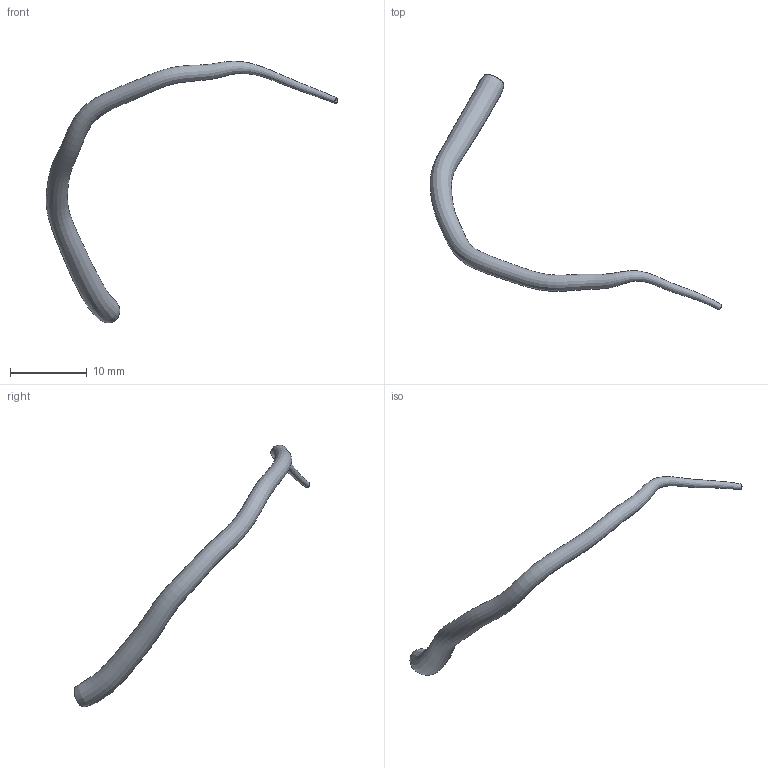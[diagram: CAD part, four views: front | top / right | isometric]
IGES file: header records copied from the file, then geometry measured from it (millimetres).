
Global section: file name: C:\Documents and Settings\Administrator\Desktop\FDA-Pig\Domestic LCA\Pig_000138\lcx.seg.ed.igs; native system: Rhinoceros ( May 19 2006 ); preprocessor: Trout Lake IGES 012 May 19 2006; date: 111205.184704; units: centimetre
Bounding box: 37.9 x 30.65 x 34.04 mm (x, y, z)
Surface area: 1003.2 mm2 (no closed solid volume)
Topology: 0 solids, 0 shells, 4 faces, 13 edges, 10 vertices
Faces by surface type: bspline 4
